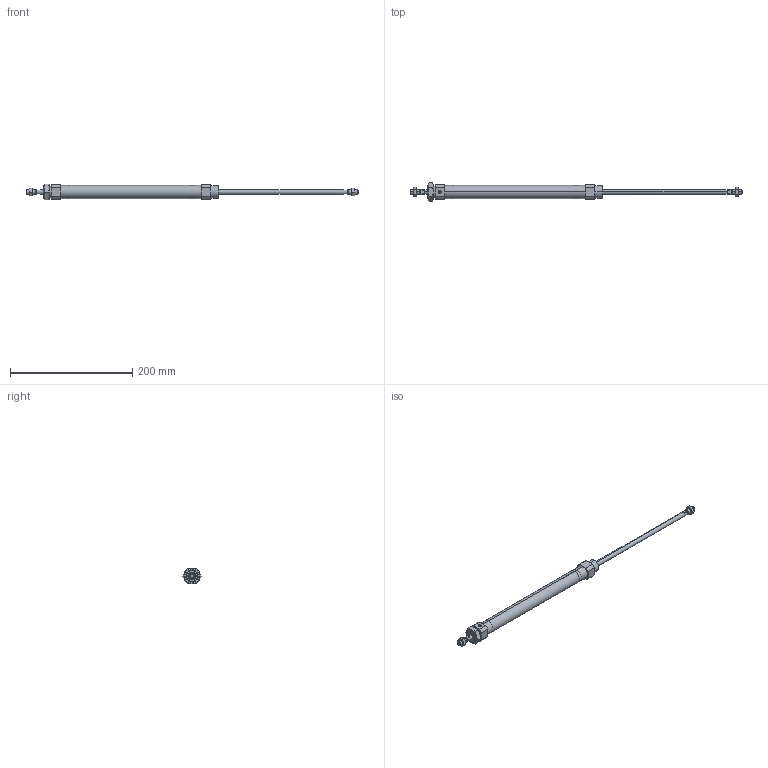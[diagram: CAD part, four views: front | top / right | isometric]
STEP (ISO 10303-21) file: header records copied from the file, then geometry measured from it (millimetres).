
FILE_DESCRIPTION (( 'STEP AP203' ), '1' );
FILE_NAME ('CSM2B20-200-P.STEP', '2020-07-20T15:30:15', ( '' ), ( '' ), 'SwSTEP 2.0', 'SolidWorks 2019', '' );
FILE_SCHEMA (( 'CONFIG_CONTROL_DESIGN' ));
Length unit declared in the file: millimetre
Products named in the file (1): CSM2B20-200-P
Bounding box: 544 x 30.02 x 26 mm (x, y, z)
Volume: 71700.6 mm3; surface area: 54212.1 mm2
Topology: 5 solids, 5 shells, 154 faces, 364 edges, 229 vertices
Faces by surface type: plane 62, cone 46, cylinder 46
Entity records: 5475 total; most frequent: CARTESIAN_POINT 1856, DIRECTION 748, ORIENTED_EDGE 724, EDGE_CURVE 362, AXIS2_PLACEMENT_3D 297, VERTEX_POINT 229, EDGE_LOOP 177, LINE 154
